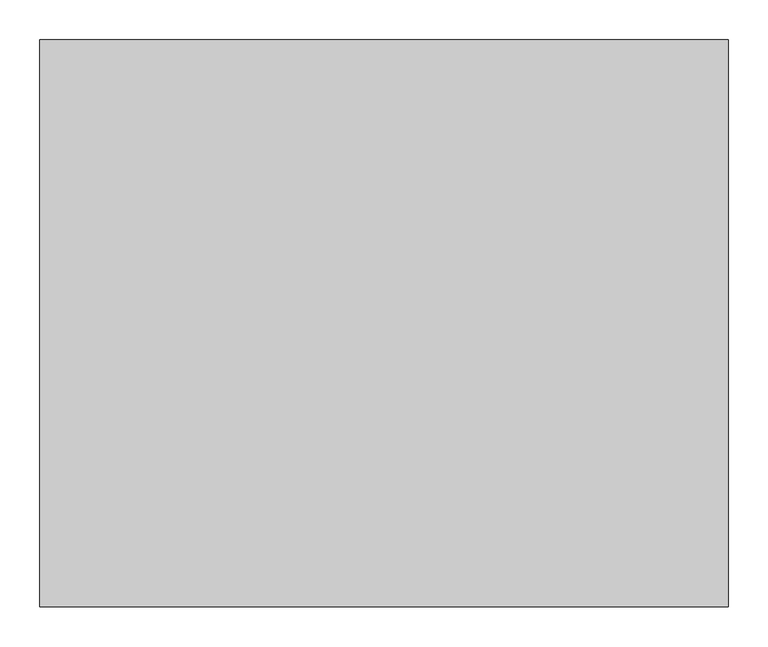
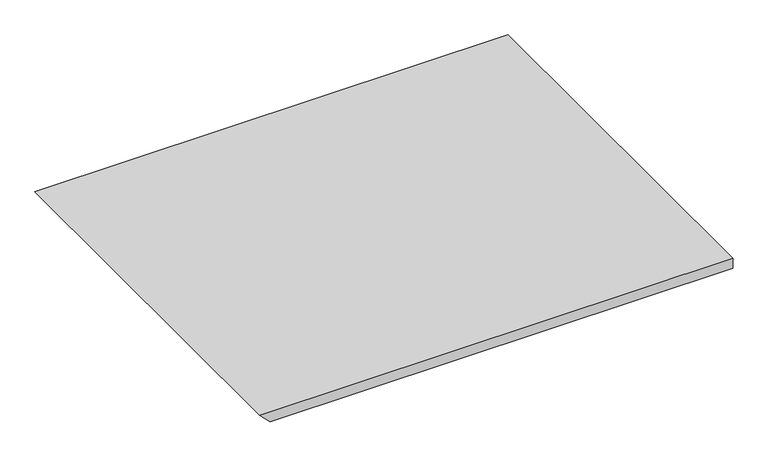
"""IFC4 building model written with IfcOpenShell, lengths in millimetres: proxy geometry, CAMBRIDGE^TABLE 2_4884 Rect-INSIDE SIDE PANEL 1."""

from ifc_helpers import new_model, si_unit, frame, origin, place, context, project, spatial, polyline, outline, extrude, source, transform, mapped, element, save


def generic_models_eaa0d349(model_context):
    return source(origin(), model_context, "Body", "SweptSolid", [
        extrude(outline(polyline([(-450.85, 654.05), (-450.85, 1498.6), (-431.8, 1498.6), (-431.8, 635.0), (-450.85, 654.05)])), frame((0.0, -711.2, 0.0), z_axis=(0.0, 1.0, 0.0), x_axis=(0.0, 0.0, 1.0)), (0.0, 0.0, 1.0), 711.2),
    ])


if __name__ == "__main__":
    model = new_model("IFC4")
    model_context = context("Model", 3, world=origin())
    ifc_project = project(units=[si_unit("LENGTHUNIT", "METRE", prefix="MILLI")], contexts=[model_context])
    site = spatial("IfcSite", under=ifc_project)
    building = spatial("IfcBuilding", under=site)
    placement = place(None, origin())
    generic_models_shape = generic_models_eaa0d349(model_context)
    element("IfcBuildingElementProxy", 1, Name="CAMBRIDGE^TABLE 2_4884 Rect-INSIDE SIDE PANEL 1", ObjectType="CAMBRIDGE^TABLE 2_4884 Rect-INSIDE SIDE PANEL 1", at=placement, inside=building, context=model_context, shape_type="MappedRepresentation", body=[
        mapped(generic_models_shape, transform((0.0, 0.0, 0.0), x_axis=(1.0, 0.0, 0.0), y_axis=(0.0, 1.0, 0.0), z_axis=(0.0, 0.0, 1.0))),
    ])
    save(model, "model.ifc")
